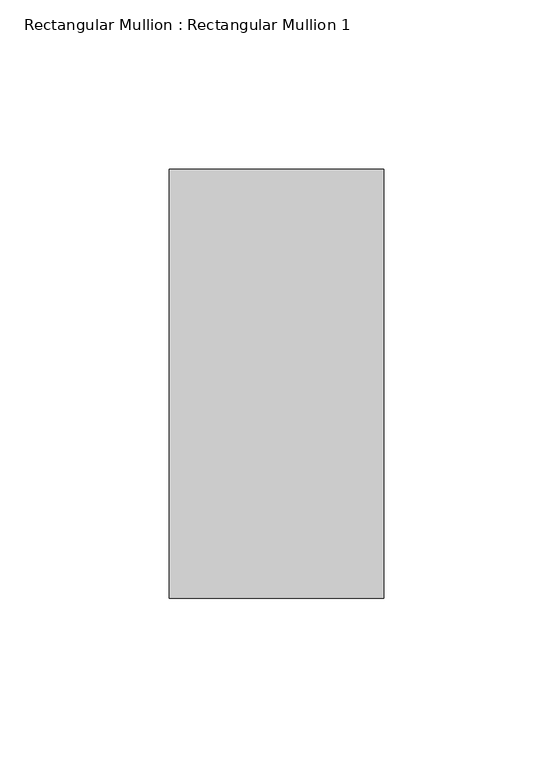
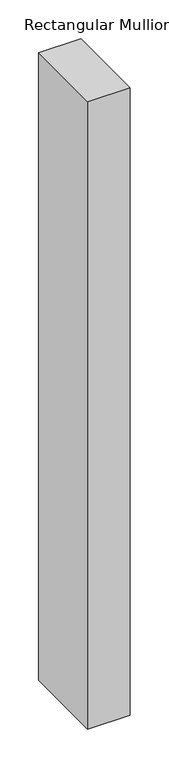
"""IFC4 building model written with IfcOpenShell, lengths in millimetres: member geometry, Rectangular Mullion : Rectangular Mullion 1."""

from ifc_helpers import new_model, si_unit, frame, origin, place, context, project, spatial, polyline, outline, extrude, source, transform, mapped, element, save


def rectangular_mullion_rectangular_mullion_1_0b7f9064(model_context):
    return source(origin(), model_context, "Body", "SweptSolid", [
        extrude(outline(polyline([(31.75, 63.5), (31.75, -63.5), (-31.75, -63.5), (-31.75, 63.5), (31.75, 63.5)])), frame((0.0, 0.0, -989.5416667), z_axis=(0.0, 0.0, 1.0), x_axis=(1.0, 0.0, 0.0)), (0.0, 0.0, 1.0), 989.5416667),
    ])


if __name__ == "__main__":
    model = new_model("IFC4")
    model_context = context("Model", 3, world=origin())
    ifc_project = project(units=[si_unit("LENGTHUNIT", "METRE", prefix="MILLI")], contexts=[model_context])
    site = spatial("IfcSite", under=ifc_project)
    building = spatial("IfcBuilding", under=site)
    placement = place(None, origin())
    rectangular_mullion_rectangular_mullion_1_shape = rectangular_mullion_rectangular_mullion_1_0b7f9064(model_context)
    element("IfcMember", 1, ObjectType="Rectangular Mullion : Rectangular Mullion 1", at=placement, inside=building, context=model_context, shape_type="MappedRepresentation", body=[
        mapped(rectangular_mullion_rectangular_mullion_1_shape, transform((0.0, 0.0, 0.0), x_axis=(1.0, 0.0, 0.0), y_axis=(0.0, 1.0, 0.0), z_axis=(0.0, 0.0, 1.0))),
    ])
    save(model, "model.ifc")
